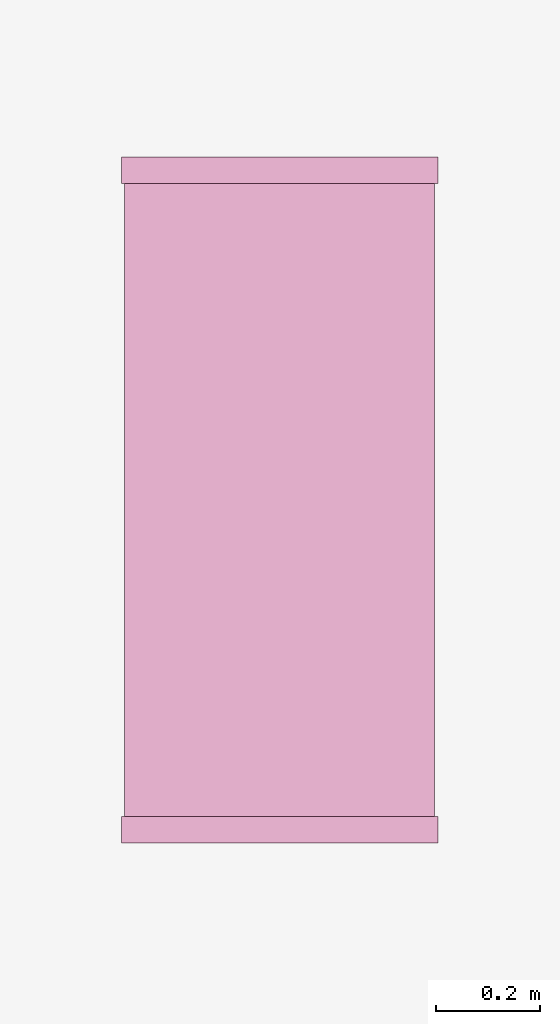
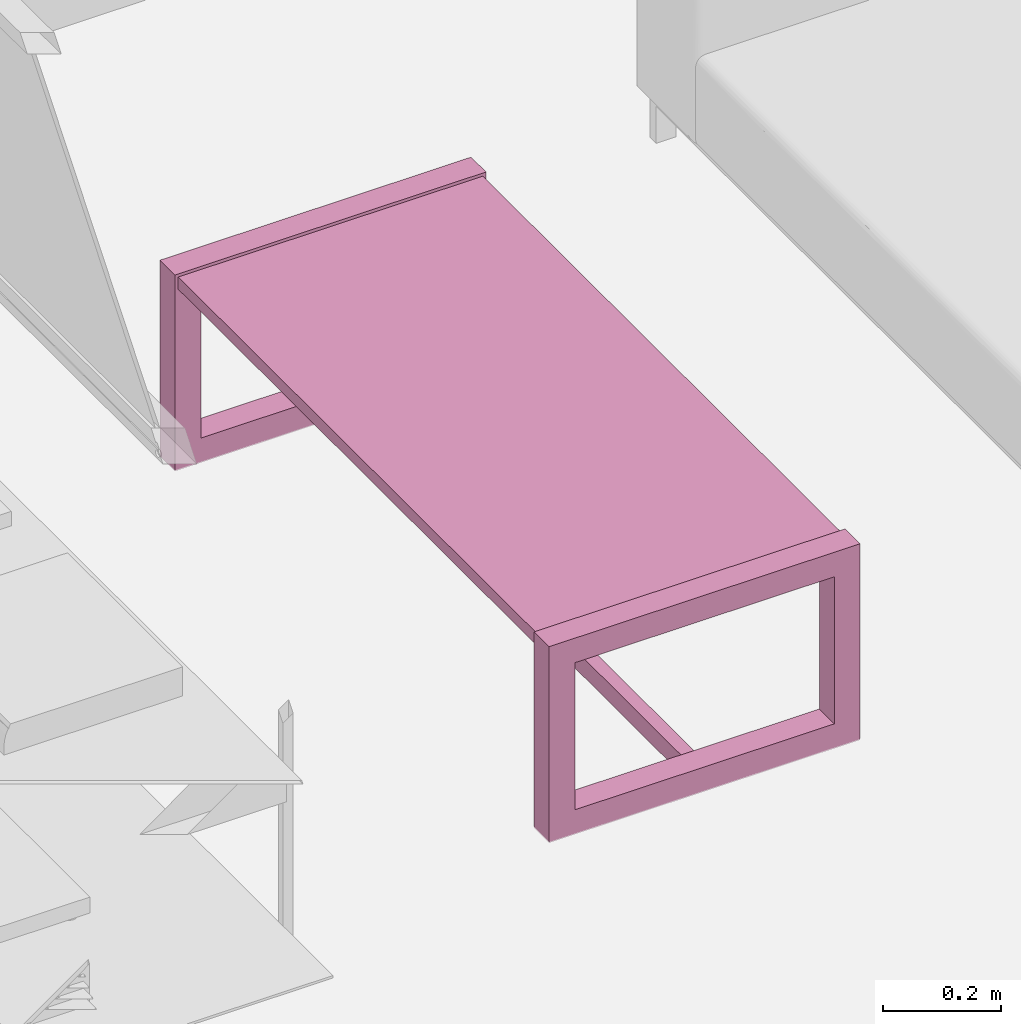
# One storey, part 38 of 41: 1 furnishing.
"""IFC2X3 building model written with IfcOpenShell, lengths in millimetres."""

from ifc_helpers import new_model, entity, si_unit, converted_unit, derived_unit, direction, frame, origin, place, context, subcontext, project, spatial, face_set, surface_model, source, transform, mapped, type_object, type_shapes, element, save


model = new_model("IFC2X3")

# Units and contexts
model_context = context("Model", 3, precision=0.01, world=origin(), true_north=direction((6.12303176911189e-17, 1.0)))
body_context = subcontext(model_context, "Body", "Model", "MODEL_VIEW")
ifc_project = project(units=[si_unit("LENGTHUNIT", "METRE", prefix="MILLI"), si_unit("AREAUNIT", "SQUARE_METRE"), si_unit("VOLUMEUNIT", "CUBIC_METRE"), converted_unit("PLANEANGLEUNIT", "DEGREE", entity("IfcRatioMeasure", 0.0174532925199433), si_unit("PLANEANGLEUNIT", "RADIAN"), dimensions=[0, 0, 0, 0, 0, 0, 0]), si_unit("MASSUNIT", "GRAM", prefix="KILO"), derived_unit("MASSDENSITYUNIT", [(si_unit("MASSUNIT", "GRAM", prefix="KILO"), 1), (si_unit("LENGTHUNIT", "METRE"), -3)]), si_unit("TIMEUNIT", "SECOND"), si_unit("FREQUENCYUNIT", "HERTZ"), si_unit("THERMODYNAMICTEMPERATUREUNIT", "DEGREE_CELSIUS"), derived_unit("THERMALTRANSMITTANCEUNIT", [(si_unit("MASSUNIT", "GRAM", prefix="KILO"), 1), (si_unit("THERMODYNAMICTEMPERATUREUNIT", "KELVIN"), -1), (si_unit("TIMEUNIT", "SECOND"), -3)]), derived_unit("VOLUMETRICFLOWRATEUNIT", [(si_unit("LENGTHUNIT", "METRE"), 3), (si_unit("TIMEUNIT", "SECOND"), -1)]), si_unit("ELECTRICCURRENTUNIT", "AMPERE"), si_unit("ELECTRICVOLTAGEUNIT", "VOLT"), si_unit("POWERUNIT", "WATT"), si_unit("FORCEUNIT", "NEWTON", prefix="KILO"), si_unit("ILLUMINANCEUNIT", "LUX"), si_unit("LUMINOUSFLUXUNIT", "LUMEN"), si_unit("LUMINOUSINTENSITYUNIT", "CANDELA"), derived_unit("USERDEFINED", [(si_unit("MASSUNIT", "GRAM", prefix="KILO"), -1), (si_unit("LENGTHUNIT", "METRE"), -2), (si_unit("TIMEUNIT", "SECOND"), 3), (si_unit("LUMINOUSFLUXUNIT", "LUMEN"), 1)]), derived_unit("LINEARVELOCITYUNIT", [(si_unit("LENGTHUNIT", "METRE"), 1), (si_unit("TIMEUNIT", "SECOND"), -1)]), si_unit("PRESSUREUNIT", "PASCAL"), derived_unit("USERDEFINED", [(si_unit("LENGTHUNIT", "METRE"), -2), (si_unit("MASSUNIT", "GRAM", prefix="KILO"), 1), (si_unit("TIMEUNIT", "SECOND"), -2)])], contexts=[model_context])

# Site, building, storey, space
site_placement = place(None, origin())
site = spatial("IfcSite", under=ifc_project, at=site_placement, Name="Surface", CompositionType="ELEMENT")
building_placement = place(site_placement, origin())
building = spatial("IfcBuilding", under=site, at=building_placement, CompositionType="ELEMENT")
storey_placement = place(building_placement, frame((0.0, 0.0, 300.0)))
storey = spatial("IfcBuildingStorey", under=building, at=storey_placement, Name="F.F.L", CompositionType="ELEMENT", Elevation=300.0)
space_placement = place(storey_placement, origin())
space = spatial("IfcSpace", under=storey, at=space_placement, Name="6", CompositionType="ELEMENT", InteriorOrExteriorSpace="INTERNAL")

# Furnishing
furniture_type = type_object("IfcFurnitureType", Name="Coffee_Table_854", AssemblyPlace="NOTDEFINED")
shared_shape = source(origin(), body_context, "Body", "SurfaceModel", [
    surface_model("IfcFaceBasedSurfaceModel", [(0.0, 50.8101616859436, 0.0), (50.8101616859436, 50.8101616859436, 50.8101616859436), (609.6, 50.8101616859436, 0.0), (558.789838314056, 50.8101616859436, 50.8101616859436), (50.8101616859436, 50.8101616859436, 355.610161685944), (0.0, 50.8101616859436, 406.389838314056), (609.6, 50.8101616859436, 406.389838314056), (558.789838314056, 50.8101616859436, 355.610161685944), (0.0, 0.0, 0.0), (50.8101616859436, 0.0, 50.8101616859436), (609.6, 0.0, 0.0), (558.789838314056, 0.0, 50.8101616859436), (50.8101616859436, 0.0, 355.610161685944), (0.0, 0.0, 406.389838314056), (609.6, 0.0, 406.389838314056), (558.789838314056, 0.0, 355.610161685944), (50.8101616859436, 1270.01012535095, 355.610161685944), (0.0, 1270.01012535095, 406.389838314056), (609.6, 1270.01012535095, 406.389838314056), (558.789838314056, 1270.01012535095, 355.610161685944), (0.0, 1270.01012535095, 0.0), (50.8101616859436, 1270.01012535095, 50.8101616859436), (609.6, 1270.01012535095, 0.0), (558.789838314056, 1270.01012535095, 50.8101616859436), (0.0, 1320.82039604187, 0.0), (50.8101616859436, 1320.82039604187, 50.8101616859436), (609.6, 1320.82039604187, 0.0), (558.789838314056, 1320.82039604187, 50.8101616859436), (50.8101616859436, 1320.82039604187, 355.610161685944), (0.0, 1320.82039604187, 406.389838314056), (609.6, 1320.82039604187, 406.389838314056), (558.789838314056, 1320.82039604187, 355.610161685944), (317.510161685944, 1270.01012535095, 6.33984001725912), (317.510161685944, 1270.01012535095, 44.4398428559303), (317.510161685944, 50.8101616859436, 6.33984001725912), (317.510161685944, 50.8101616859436, 44.4398428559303), (609.6, 50.8101616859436, 406.389838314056), (609.6, 0.0, 406.389838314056), (609.6, 50.8101616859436, 0.0), (609.6, 0.0, 0.0), (558.789838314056, 50.8101616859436, 355.610161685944), (558.789838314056, 0.0, 355.610161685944), (558.789838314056, 0.0, 50.8101616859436), (558.789838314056, 50.8101616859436, 50.8101616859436), (0.0, 50.8101616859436, 406.389838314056), (0.0, 0.0, 406.389838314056), (0.0, 50.8101616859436, 0.0), (50.8101616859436, 50.8101616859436, 355.610161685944), (50.8101616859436, 0.0, 355.610161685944), (50.8101616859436, 0.0, 50.8101616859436), (50.8101616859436, 50.8101616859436, 50.8101616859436), (0.0, 1320.82039604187, 406.389838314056), (0.0, 1270.01012535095, 406.389838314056), (0.0, 1320.82039604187, 0.0), (0.0, 1270.01012535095, 0.0), (558.789838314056, 1320.82039604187, 355.610161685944), (558.789838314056, 1270.01012535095, 355.610161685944), (558.789838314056, 1270.01012535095, 50.8101616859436), (558.789838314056, 1320.82039604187, 50.8101616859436), (609.6, 1320.82039604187, 406.389838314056), (609.6, 1270.01012535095, 406.389838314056), (609.6, 1320.82039604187, 0.0), (609.6, 1270.01012535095, 0.0), (50.8101616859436, 1320.82039604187, 355.610161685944), (50.8101616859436, 1270.01012535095, 355.610161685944), (50.8101616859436, 1270.01012535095, 50.8101616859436), (50.8101616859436, 1320.82039604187, 50.8101616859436), (558.789838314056, 50.8101616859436, 355.610161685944), (609.6, 50.8101616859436, 406.389838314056), (558.789838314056, 50.8101616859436, 50.8101616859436), (609.6, 50.8101616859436, 0.0), (558.789838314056, 0.0, 355.610161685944), (609.6, 0.0, 406.389838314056), (558.789838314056, 0.0, 50.8101616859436), (609.6, 0.0, 0.0), (0.0, 50.8101616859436, 406.389838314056), (50.8101616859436, 50.8101616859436, 355.610161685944), (50.8101616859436, 50.8101616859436, 50.8101616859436), (0.0, 50.8101616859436, 0.0), (0.0, 0.0, 406.389838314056), (50.8101616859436, 0.0, 355.610161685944), (50.8101616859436, 0.0, 50.8101616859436), (0.0, 1270.01012535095, 406.389838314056), (50.8101616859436, 1270.01012535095, 355.610161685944), (50.8101616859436, 1270.01012535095, 50.8101616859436), (0.0, 1270.01012535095, 0.0), (558.789838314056, 1270.01012535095, 355.610161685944), (609.6, 1270.01012535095, 406.389838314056), (558.789838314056, 1270.01012535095, 50.8101616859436), (609.6, 1270.01012535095, 0.0), (558.789838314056, 1320.82039604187, 355.610161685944), (609.6, 1320.82039604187, 406.389838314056), (558.789838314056, 1320.82039604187, 50.8101616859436), (609.6, 1320.82039604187, 0.0), (0.0, 1320.82039604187, 406.389838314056), (50.8101616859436, 1320.82039604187, 355.610161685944), (50.8101616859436, 1320.82039604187, 50.8101616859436), (0.0, 1320.82039604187, 0.0), (603.260161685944, 1270.01012535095, 400.05), (6.33984001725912, 1270.01012535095, 400.05), (6.33984001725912, 50.8101616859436, 400.05), (603.260161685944, 50.8101616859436, 400.05), (603.260161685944, 1270.01012535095, 374.660161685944), (6.33984001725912, 1270.01012535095, 374.660161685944), (603.260161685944, 50.8101616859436, 374.660161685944), (6.33984001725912, 50.8101616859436, 374.660161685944), (6.33984001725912, 1270.01012535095, 374.660161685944), (6.33984001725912, 1270.01012535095, 400.05), (6.33984001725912, 50.8101616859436, 374.660161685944), (6.33984001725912, 50.8101616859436, 400.05), (603.260161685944, 1270.01012535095, 374.660161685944), (603.260161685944, 1270.01012535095, 400.05), (603.260161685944, 50.8101616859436, 400.05), (603.260161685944, 50.8101616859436, 374.660161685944), (292.089856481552, 50.8101616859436, 44.4398428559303), (317.510161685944, 50.8101616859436, 44.4398428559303), (292.089856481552, 1270.01012535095, 44.4398428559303), (317.510161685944, 1270.01012535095, 44.4398428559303), (292.089856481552, 50.8101616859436, 6.33984001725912), (317.510161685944, 50.8101616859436, 6.33984001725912), (317.510161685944, 1270.01012535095, 6.33984001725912), (292.089856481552, 1270.01012535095, 6.33984001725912), (50.8101616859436, 1320.82039604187, 50.8101616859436), (50.8101616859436, 1270.01012535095, 50.8101616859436), (558.789838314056, 1320.82039604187, 50.8101616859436), (558.789838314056, 1270.01012535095, 50.8101616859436), (50.8101616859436, 1320.82039604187, 355.610161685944), (50.8101616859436, 1270.01012535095, 355.610161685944), (558.789838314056, 1320.82039604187, 355.610161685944), (558.789838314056, 1270.01012535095, 355.610161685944), (50.8101616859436, 0.0, 50.8101616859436), (50.8101616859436, 50.8101616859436, 50.8101616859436), (558.789838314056, 50.8101616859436, 50.8101616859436), (558.789838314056, 0.0, 50.8101616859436), (50.8101616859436, 50.8101616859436, 355.610161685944), (50.8101616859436, 0.0, 355.610161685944), (558.789838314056, 50.8101616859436, 355.610161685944), (558.789838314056, 0.0, 355.610161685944), (609.6, 0.0, 0.0), (0.0, 50.8101616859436, 406.389838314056), (0.0, 0.0, 406.389838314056), (609.6, 0.0, 406.389838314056), (609.6, 50.8101616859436, 406.389838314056), (0.0, 1270.01012535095, 0.0), (609.6, 1270.01012535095, 0.0), (0.0, 1320.82039604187, 406.389838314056), (0.0, 1270.01012535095, 406.389838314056), (609.6, 1270.01012535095, 406.389838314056), (609.6, 1320.82039604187, 406.389838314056), (292.089856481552, 1270.01012535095, 6.33984001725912), (292.089856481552, 1270.01012535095, 44.4398428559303), (292.089856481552, 50.8101616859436, 6.33984001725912), (292.089856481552, 50.8101616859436, 44.4398428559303)], [face_set([[[0, 1, 2]], [[3, 2, 1]], [[4, 5, 6]], [[6, 7, 4]], [[8, 9, 10]], [[11, 10, 9]], [[12, 13, 14]], [[14, 15, 12]], [[16, 17, 18]], [[18, 19, 16]], [[20, 21, 22]], [[23, 22, 21]], [[24, 25, 26]], [[27, 26, 25]], [[28, 29, 30]], [[30, 31, 28]]]), face_set([[[32, 33, 34]], [[35, 34, 33]]]), face_set([[[36, 37, 38]], [[39, 38, 37]], [[40, 41, 42]], [[42, 43, 40]], [[44, 45, 46]], [[8, 46, 45]], [[47, 48, 49]], [[49, 50, 47]], [[51, 52, 53]], [[54, 53, 52]], [[55, 56, 57]], [[57, 58, 55]], [[59, 60, 61]], [[62, 61, 60]], [[63, 64, 65]], [[65, 66, 63]]]), face_set([[[67, 68, 69]], [[70, 69, 68]], [[71, 72, 73]], [[74, 73, 72]], [[75, 76, 77]], [[77, 78, 75]], [[79, 80, 81]], [[81, 8, 79]], [[82, 83, 84]], [[84, 85, 82]], [[86, 87, 88]], [[89, 88, 87]], [[90, 91, 92]], [[93, 92, 91]], [[94, 95, 96]], [[96, 97, 94]]]), face_set([[[98, 99, 100]], [[100, 101, 98]], [[102, 103, 104]], [[105, 104, 103]]]), face_set([[[106, 107, 108]], [[109, 108, 107]], [[110, 111, 112]], [[112, 113, 110]]]), face_set([[[114, 115, 116]], [[117, 116, 115]], [[118, 119, 120]], [[120, 121, 118]]]), face_set([[[122, 123, 124]], [[125, 124, 123]], [[126, 127, 128]], [[129, 128, 127]], [[130, 131, 132]], [[132, 133, 130]], [[134, 135, 136]], [[137, 136, 135]], [[8, 130, 133]], [[133, 138, 8]], [[139, 140, 141]], [[141, 142, 139]], [[123, 143, 125]], [[144, 125, 143]], [[145, 146, 147]], [[147, 148, 145]]]), face_set([[[149, 150, 151]], [[152, 151, 150]]])]),
])
type_shapes(furniture_type, [shared_shape])
furnishing_placement = place(space_placement, frame((-7536.8751700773, 5936.96888100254, 0.0)))
element("IfcFurnishingElement", 1, at=furnishing_placement, inside=space, type_object=furniture_type, Name="Coffee_Table_854:Coffee_Table_854", ObjectType="Coffee_Table_854", context=body_context, shape_type="MappedRepresentation", body=[
    mapped(shared_shape, transform((0.0, 0.0, 0.0), scale=1.0)),
])

save(model, "model.ifc")
